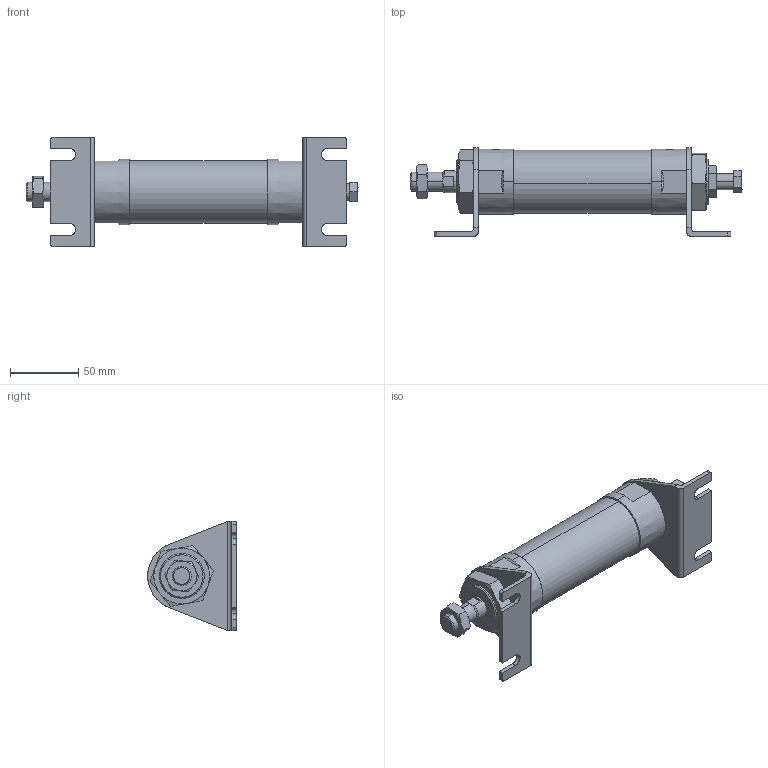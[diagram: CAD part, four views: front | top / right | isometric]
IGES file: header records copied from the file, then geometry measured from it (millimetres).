
Start section: SolidWorks IGES file using analytic representation for surfaces
Global section: file name: C:\Users\Toshiba\Desktop\JGA2-40-50-L.IGS; native system: SolidWorks 2014; preprocessor: SolidWorks 2014; author: Toshiba; date: 160420.130932; units: millimetre
Bounding box: 243.5 x 65 x 80 mm (x, y, z)
Surface area: 71799.8 mm2 (no closed solid volume)
Topology: 0 solids, 0 shells, 200 faces, 3660 edges, 3656 vertices
Faces by surface type: bspline 134, revolution 66
